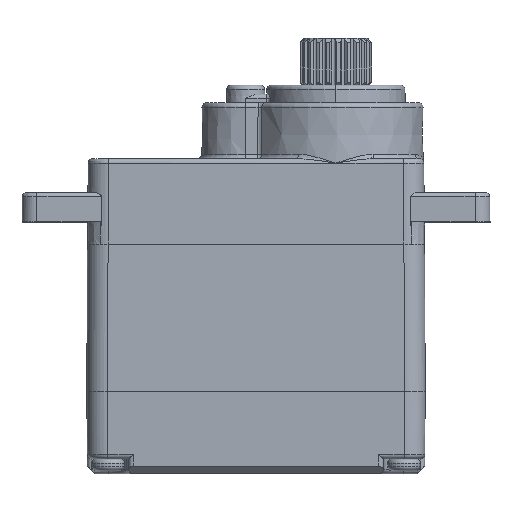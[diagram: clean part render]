
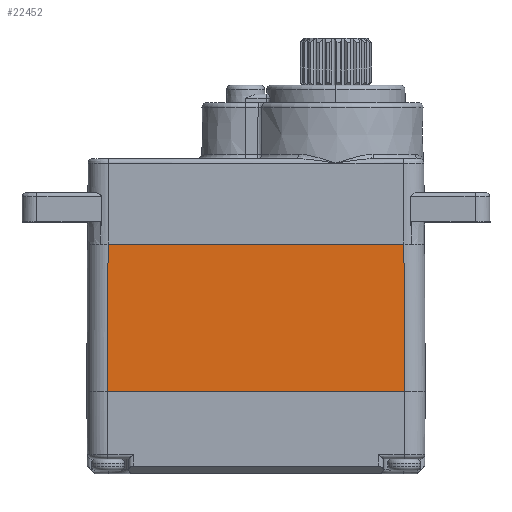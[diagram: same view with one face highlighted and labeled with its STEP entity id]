
A CAD part, top view. The second image highlights one B-rep face of the part: STEP entity #22452.
In plain terms, the highlighted planar face has unit normal (0, 0.005, 1).
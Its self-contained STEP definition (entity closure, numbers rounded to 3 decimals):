
#788=CARTESIAN_POINT('',(10.05,0.,6.));
#2105=CARTESIAN_POINT('',(-10.05,0.,
6.));
#2155=CARTESIAN_POINT('',(-10.1,-10.,
6.05));
#2183=DIRECTION('',(1.,0.,0.));
#2184=VECTOR('',#2183,20.2);
#2185=CARTESIAN_POINT('',(-10.1,-10.,
6.05));
#2186=LINE('',#2185,#2184);
#2190=DIRECTION('',(0.005,1.,-0.005));
#2191=VECTOR('',#2190,10.);
#2192=CARTESIAN_POINT('',(-10.1,-10.,
6.05));
#2193=LINE('',#2192,#2191);
#2197=DIRECTION('',(0.005,-1.,0.005));
#2198=VECTOR('',#2197,10.);
#2199=CARTESIAN_POINT('',(10.05,0.,6.));
#2200=LINE('',#2199,#2198);
#2204=DIRECTION('',(1.,0.,0.));
#2205=VECTOR('',#2204,20.1);
#2206=CARTESIAN_POINT('',(-10.05,0.,
6.));
#2207=LINE('',#2206,#2205);
#18319=VERTEX_POINT('',#2105);
#18333=VERTEX_POINT('',#788);
#19592=VERTEX_POINT('',#2155);
#19593=CARTESIAN_POINT('',(10.1,-10.,
6.05));
#19594=VERTEX_POINT('',#19593);
#22440=CARTESIAN_POINT('',(0.,-5.,6.025));
#22441=DIRECTION('',(0.,0.005,1.));
#22442=DIRECTION('',(1.,0.,0.));
#22443=AXIS2_PLACEMENT_3D('',#22440,#22441,#22442);
#22444=PLANE('',#22443);
#22445=ORIENTED_EDGE('',*,*,#22423,.F.);
#22446=ORIENTED_EDGE('',*,*,#22398,.T.);
#22448=ORIENTED_EDGE('',*,*,#22447,.T.);
#22449=ORIENTED_EDGE('',*,*,#21369,.T.);
#22450=EDGE_LOOP('',(#22445,#22446,#22448,#22449));
#22451=FACE_OUTER_BOUND('',#22450,.F.);
#21369=EDGE_CURVE('',#18333,#19594,#2200,.T.);
#22398=EDGE_CURVE('',#19592,#18319,#2193,.T.);
#22423=EDGE_CURVE('',#19592,#19594,#2186,.T.);
#22447=EDGE_CURVE('',#18319,#18333,#2207,.T.);
#22452=ADVANCED_FACE('',(#22451),#22444,.T.);
